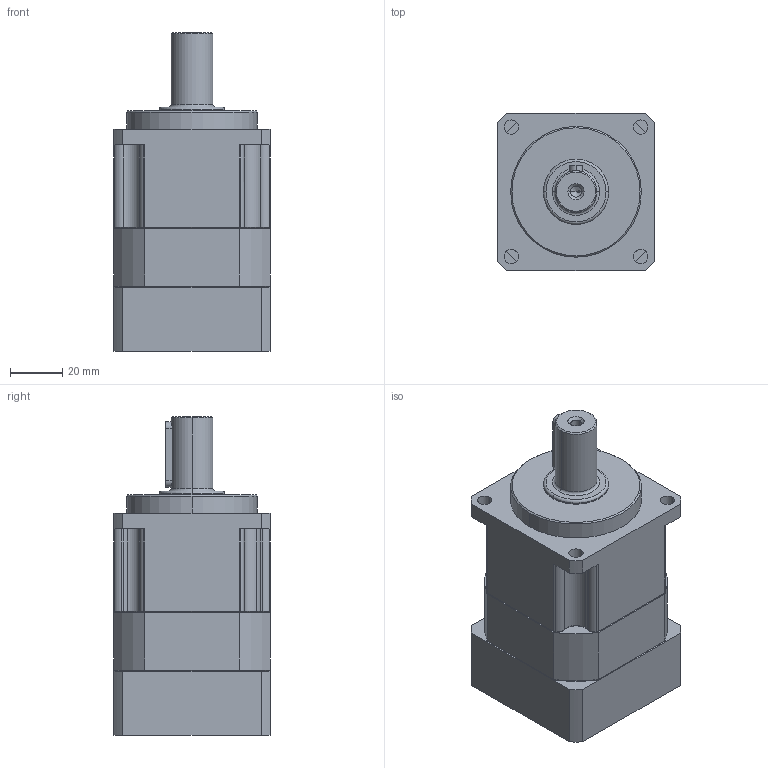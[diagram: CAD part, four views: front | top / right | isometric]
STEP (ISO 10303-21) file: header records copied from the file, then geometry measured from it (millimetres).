
FILE_DESCRIPTION (( 'STEP AP214' ), '1' );
FILE_NAME ('PAB-060-L1-S2-P1 14-50-70-M4.STEP', '2023-02-24T09:18:19', ( 'Admin' ), ( '' ), 'SwSTEP 2.0', 'SolidWorks 2018', '' );
FILE_SCHEMA (( 'AUTOMOTIVE_DESIGN' ));
Length unit declared in the file: millimetre
Products named in the file (1): PAB-060-L1-S2-P1 14-50-70-M4
Bounding box: 60 x 60 x 122 mm (x, y, z)
Volume: 275209.2 mm3; surface area: 37383.3 mm2
Topology: 1 solids, 1 shells, 158 faces, 385 edges, 241 vertices
Faces by surface type: cylinder 71, plane 47, cone 36, torus 4
Entity records: 4799 total; most frequent: CARTESIAN_POINT 894, DIRECTION 873, ORIENTED_EDGE 766, EDGE_CURVE 383, AXIS2_PLACEMENT_3D 350, VERTEX_POINT 241, CIRCLE 191, EDGE_LOOP 180
